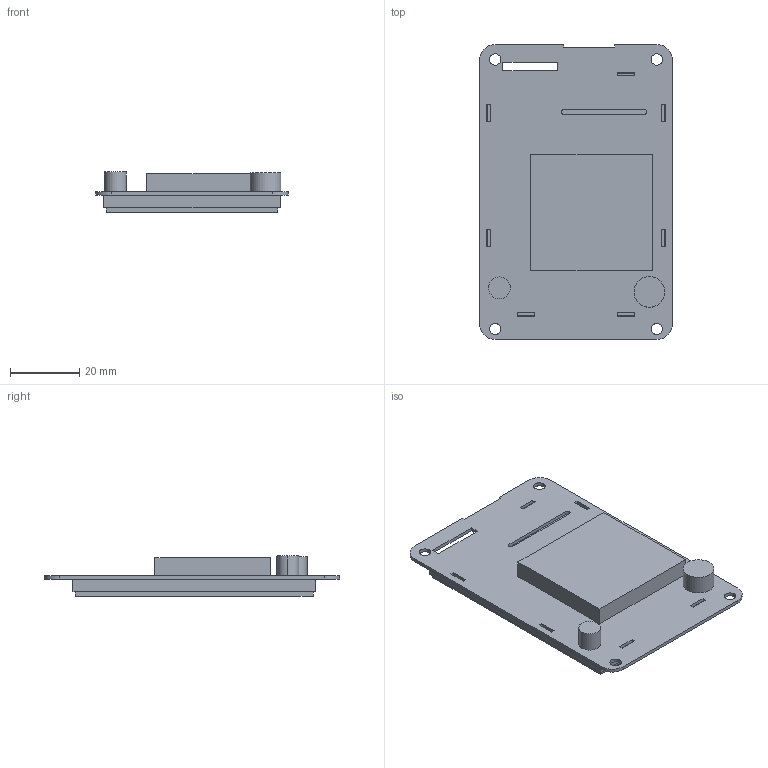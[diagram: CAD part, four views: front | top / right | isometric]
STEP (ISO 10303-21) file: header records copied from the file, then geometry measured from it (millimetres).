
FILE_DESCRIPTION((''),'2;1');
FILE_NAME('DMG32240C028-03WN_-03WTR','2019-08-19T',('Administrator'),(''),'PRO/ENGINEER BY PARAMETRIC TECHNOLOGY CORPORATION, 2008380','PRO/ENGINEER BY PARAMETRIC TECHNOLOGY CORPORATION, 2008380','');
FILE_SCHEMA(('CONFIG_CONTROL_DESIGN'));
Length unit declared in the file: millimetre
Products named in the file (1): DMG32240C028-03WN_-03WTR
Bounding box: 55.63 x 85.22 x 11.6 mm (x, y, z)
Volume: 27400.8 mm3; surface area: 17267.5 mm2
Topology: 1 solids, 2 shells, 93 faces, 6313 edges, 10185 vertices
Faces by surface type: plane 75, cylinder 18
Entity records: 35416 total; most frequent: DIRECTION 8651, CARTESIAN_POINT 6573, TRIMMED_CURVE 6057, VECTOR 4163, LINE 4163, AXIS2_PLACEMENT_3D 2244, CIRCLE 2150, ORIENTED_EDGE 512
